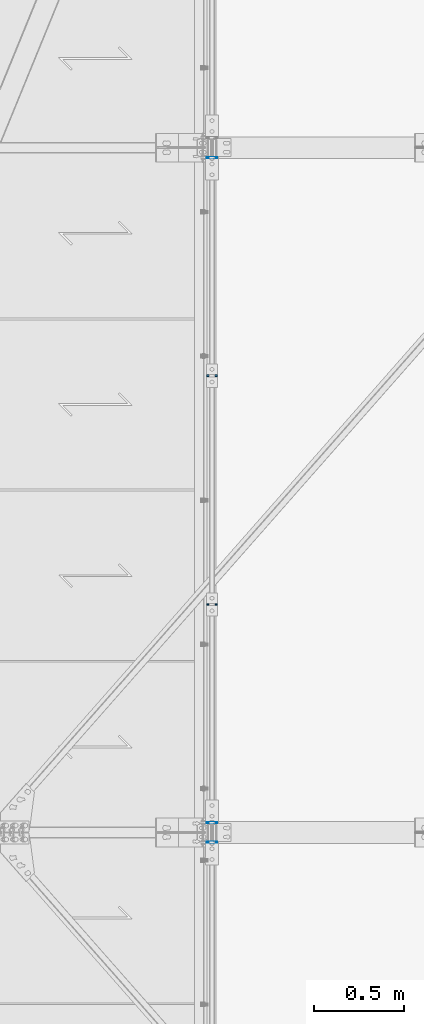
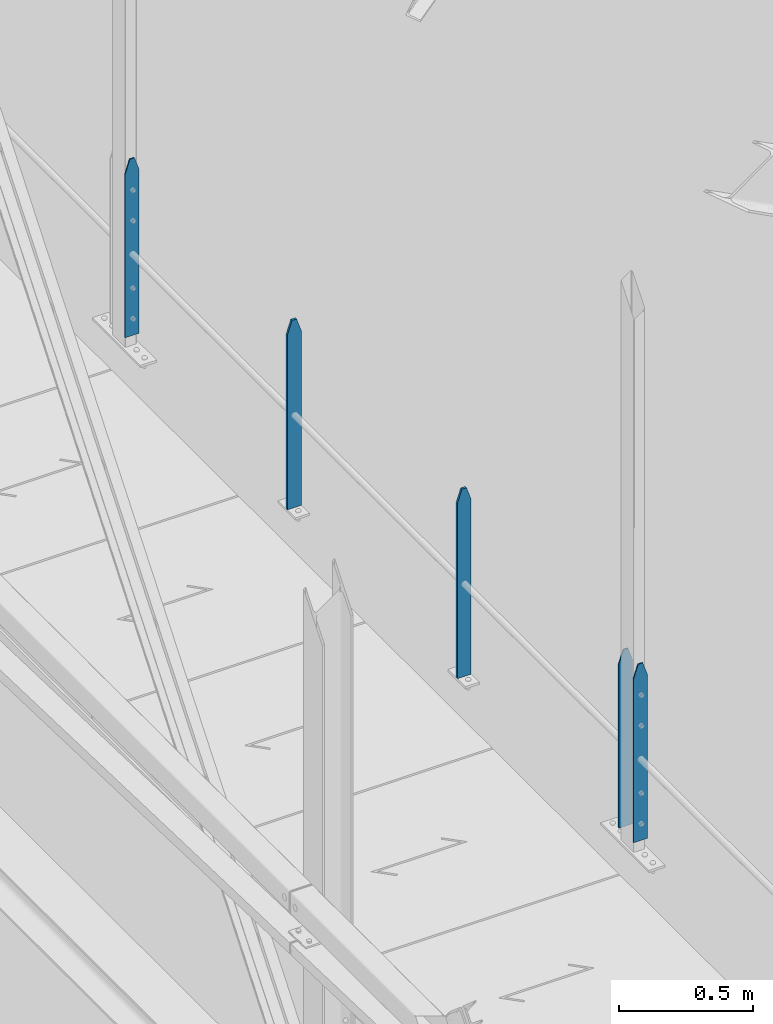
# One storey, part 25 of 362: 5 columns, 2 elements without a shape of their own.
"""IFC2X3 building model written with IfcOpenShell, lengths in millimetres."""

from ifc_helpers import new_model, si_unit, frame, origin_with_axes, origin_2d_with_axis, place, context, subcontext, project, spatial, rectangle, extrude, clip, halfspace, material, type_object, element, aggregate, save


model = new_model("IFC2X3")

# Units and contexts
model_context = context("Model", 3, precision=1e-05, world=origin_with_axes())
body_context = subcontext(model_context, "Body", "Model", "MODEL_VIEW")
ifc_project = project(units=[si_unit("LENGTHUNIT", "METRE", prefix="MILLI"), si_unit("AREAUNIT", "SQUARE_METRE"), si_unit("VOLUMEUNIT", "CUBIC_METRE"), si_unit("MASSUNIT", "GRAM", prefix="KILO"), si_unit("TIMEUNIT", "SECOND"), si_unit("PLANEANGLEUNIT", "RADIAN"), si_unit("SOLIDANGLEUNIT", "STERADIAN"), si_unit("THERMODYNAMICTEMPERATUREUNIT", "DEGREE_CELSIUS"), si_unit("LUMINOUSINTENSITYUNIT", "LUMEN")], contexts=[model_context])

# Site, building, storey
site_placement = place(None, origin_with_axes())
site = spatial("IfcSite", under=ifc_project, at=site_placement, Name="Undefined", CompositionType="ELEMENT")
building_placement = place(site_placement, origin_with_axes())
building = spatial("IfcBuilding", under=site, at=building_placement, Name="Undefined", CompositionType="ELEMENT")
storey_placement = place(building_placement, origin_with_axes())
storey = spatial("IfcBuildingStorey", under=building, at=storey_placement, Name="Undefined", CompositionType="ELEMENT", Elevation=0.0)

# Assembly, columns
assembly_1_placement = place(storey_placement, origin_with_axes())
assembly_1 = element("IfcElementAssembly", 1, at=assembly_1_placement, inside=storey, Name="MAIN COURANTE", AssemblyPlace="NOTDEFINED", PredefinedType="NOTDEFINED")
ifc_material = material(Name="Undefined/S235-E24")
column_type_1 = type_object("IfcColumnType", Name="PL10*60", PredefinedType="NOTDEFINED")
column_1_placement = place(assembly_1_placement, frame((13993.9998889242, 8865.00344717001, 8250.00000282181), z_axis=(0.0, 0.0, 1.0), x_axis=(1.0, 0.0, 0.0)))
column_1 = element("IfcColumn", 2, at=column_1_placement, type_object=column_type_1, material=ifc_material, Name="MONTANT", ObjectType="PL10*60", context=body_context, shape_type="Clipping", body=[
    clip(clip(extrude(rectangle(XDim=10.0, YDim=60.0, at=origin_2d_with_axis()), frame((0.0, 0.0, 857.599997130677), z_axis=(0.0, 0.0, -1.0), x_axis=(0.0, 1.0, 0.0)), (0.0, 0.0, 1.0), 857.6), halfspace(frame((30.0000001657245, -5.000000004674, 797.599997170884), z_axis=(0.948683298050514, 0.0, 0.316227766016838), x_axis=(-0.316227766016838, 0.0, 0.948683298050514)), False)), halfspace(frame((-29.9999998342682, 4.99999999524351, 797.599997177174), z_axis=(-0.948683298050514, 0.0, 0.316227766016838), x_axis=(0.316227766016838, 0.0, 0.948683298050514)), False)),
])
column_2_placement = place(assembly_1_placement, frame((13993.9998899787, 10135.00344717, 8250.00000195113), z_axis=(0.0, 0.0, 1.0), x_axis=(1.0, 0.0, 0.0)))
column_2 = element("IfcColumn", 3, at=column_2_placement, type_object=column_type_1, material=ifc_material, Name="MONTANT", ObjectType="PL10*60", context=body_context, shape_type="Clipping", body=[
    clip(clip(extrude(rectangle(XDim=10.0, YDim=60.0, at=origin_2d_with_axis()), frame((0.0, 0.0, 857.599997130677), z_axis=(0.0, 0.0, -1.0), x_axis=(0.0, 1.0, 0.0)), (0.0, 0.0, 1.0), 857.6), halfspace(frame((30.0000001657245, -5.000000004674, 797.599997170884), z_axis=(0.948683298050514, 0.0, 0.316227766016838), x_axis=(-0.316227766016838, 0.0, 0.948683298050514)), False)), halfspace(frame((-29.9999998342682, 4.99999999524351, 797.599997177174), z_axis=(-0.948683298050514, 0.0, 0.316227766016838), x_axis=(0.316227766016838, 0.0, 0.948683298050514)), False)),
])

# Assembly, column
assembly_2_placement = place(storey_placement, origin_with_axes())
assembly_2 = element("IfcElementAssembly", 4, at=assembly_2_placement, inside=storey, Name="MAIN COURANTE", AssemblyPlace="NOTDEFINED", PredefinedType="NOTDEFINED")
column_type_2 = type_object("IfcColumnType", Name="PL5*60", PredefinedType="NOTDEFINED")
column_3_placement = place(assembly_2_placement, frame((13993.9998881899, 7545.00000892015, 8300.00000380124), z_axis=(0.0, 0.0, 1.0), x_axis=(1.0, 0.0, 0.0)))
column_3 = element("IfcColumn", 5, at=column_3_placement, type_object=column_type_2, material=ifc_material, Name="MONTANT", ObjectType="PL5*60", context=body_context, shape_type="Clipping", body=[
    clip(clip(extrude(rectangle(XDim=5.0, YDim=60.0, at=origin_2d_with_axis()), frame((0.0, 0.0, 807.599997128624), z_axis=(0.0, 0.0, -1.0), x_axis=(0.0, 1.0, 0.0)), (0.0, 0.0, 1.0), 807.6), halfspace(frame((29.9999999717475, -5.00000000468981, 747.599997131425), z_axis=(0.948683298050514, 0.0, 0.316227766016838), x_axis=(-0.316227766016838, 0.0, 0.948683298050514)), False)), halfspace(frame((-30.000000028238, 4.99999999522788, 747.599997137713), z_axis=(-0.948683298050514, 0.0, 0.316227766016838), x_axis=(0.316227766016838, 0.0, 0.948683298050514)), False)),
])
aggregate(assembly_2, [column_3])

# Column
column_4_placement = place(assembly_1_placement, frame((13993.9998882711, 7655.00000891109, 8300.00000372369), z_axis=(0.0, 0.0, 1.0), x_axis=(1.0, 0.0, 0.0)))
column_4 = element("IfcColumn", 6, at=column_4_placement, type_object=column_type_2, material=ifc_material, Name="MONTANT", ObjectType="PL5*60", context=body_context, shape_type="Clipping", body=[
    clip(clip(extrude(rectangle(XDim=5.0, YDim=60.0, at=origin_2d_with_axis()), frame((0.0, 0.0, 807.599997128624), z_axis=(0.0, 0.0, -1.0), x_axis=(0.0, 1.0, 0.0)), (0.0, 0.0, 1.0), 807.6), halfspace(frame((29.9999999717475, -5.00000000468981, 747.599997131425), z_axis=(0.948683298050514, 0.0, 0.316227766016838), x_axis=(-0.316227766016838, 0.0, 0.948683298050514)), False)), halfspace(frame((-30.000000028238, 4.99999999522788, 747.599997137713), z_axis=(-0.948683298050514, 0.0, 0.316227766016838), x_axis=(0.316227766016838, 0.0, 0.948683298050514)), False)),
])

column_5_placement = place(assembly_1_placement, frame((13993.9998908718, 11345.0000089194, 8300.00000109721), z_axis=(0.0, 0.0, 1.0), x_axis=(1.0, 0.0, 0.0)))
column_5 = element("IfcColumn", 7, at=column_5_placement, type_object=column_type_2, material=ifc_material, Name="MONTANT", ObjectType="PL5*60", context=body_context, shape_type="Clipping", body=[
    clip(clip(extrude(rectangle(XDim=5.0, YDim=60.0, at=origin_2d_with_axis()), frame((0.0, 0.0, 807.599997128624), z_axis=(0.0, 0.0, -1.0), x_axis=(0.0, 1.0, 0.0)), (0.0, 0.0, 1.0), 807.6), halfspace(frame((29.9999999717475, -5.00000000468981, 747.599997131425), z_axis=(0.948683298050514, 0.0, 0.316227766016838), x_axis=(-0.316227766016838, 0.0, 0.948683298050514)), False)), halfspace(frame((-30.000000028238, 4.99999999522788, 747.599997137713), z_axis=(-0.948683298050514, 0.0, 0.316227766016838), x_axis=(0.316227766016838, 0.0, 0.948683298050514)), False)),
])

aggregate(assembly_1, [column_4, column_1, column_5, column_2])

save(model, "model.ifc")
